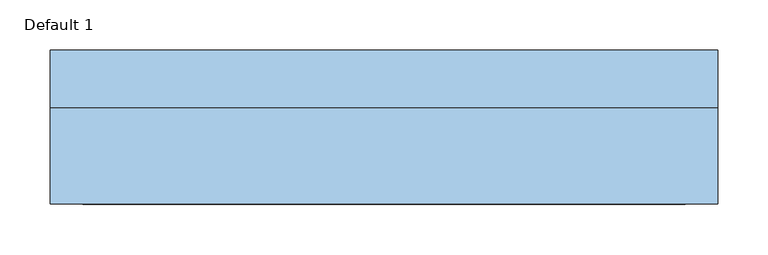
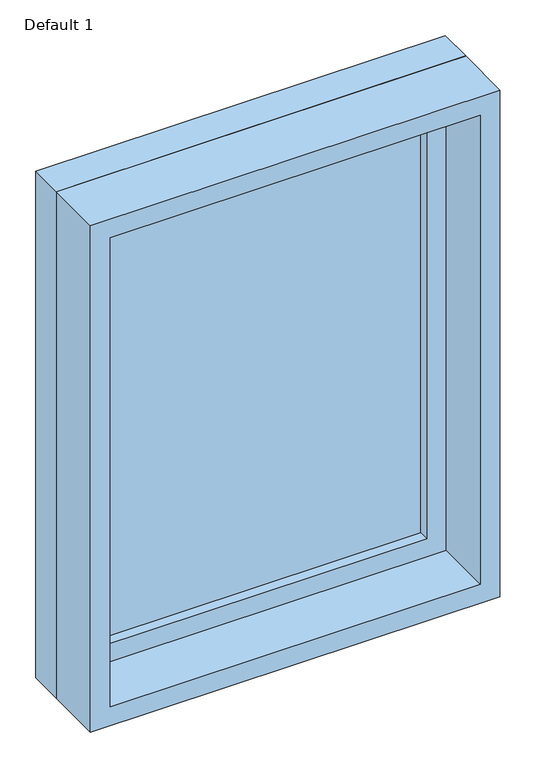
"""IFC4 building model written with IfcOpenShell, lengths in millimetres: window geometry, Planitar-Fixed : Default 1."""

import ifcopenshell
import ifcopenshell.guid

model = None  # the IFC model being written
_history = None  # IfcOwnerHistory: only IFC2X3 demands one
_inside = {}  # id of a spatial element -> (the spatial element, [elements in it])
_under = {}  # id of a project, library or spatial element -> (it, [spatial elements below it])
_declared = {}  # id of a project -> (the project, [libraries it declares])
_typed = {}  # id of a type object -> (the type object, [elements of that type])
_made_of = {}  # id of a material, layer set ... -> (it, [elements and type objects made of it])


def new_model(schema):
    """Start an empty IFC model of exactly this schema.

    Asked for "IFC4X3", IfcOpenShell would pick the latest addendum, in which some entities
    have other attributes; the version numbers below select the first issue.
    IFC2X3 requires an IfcOwnerHistory on every rooted entity: one is made here for all.
    """
    global model, _history
    if schema == "IFC4X3":
        model = ifcopenshell.file(schema_version=(4, 3, 0, 0))
    else:
        model = ifcopenshell.file(schema=schema)
    _inside.clear()
    _under.clear()
    _declared.clear()
    _typed.clear()
    _made_of.clear()
    _history = None
    if model.schema == "IFC2X3":
        org = make("IfcOrganization", Name="unknown")
        user = make(
            "IfcPersonAndOrganization",
            ThePerson=make("IfcPerson", FamilyName="unknown"),
            TheOrganization=org,
        )
        app = make(
            "IfcApplication",
            ApplicationDeveloper=org,
            Version="unknown",
            ApplicationFullName="unknown",
            ApplicationIdentifier="unknown",
        )
        _history = make(
            "IfcOwnerHistory",
            OwningUser=user,
            OwningApplication=app,
            ChangeAction="ADDED",
            CreationDate=0,
        )
    return model


def make(cls, **values):
    """One entity of the class cls with the attributes given. An attribute that is None is left unset."""
    return model.create_entity(
        cls, **{name: value for name, value in values.items() if value is not None}
    )


def rooted(cls, **values):
    """An entity with a GlobalId (a new one), such as an element, a storey or a relation."""
    return make(cls, GlobalId=ifcopenshell.guid.new(), OwnerHistory=_history, **values)


def si_unit(unit_type, name, prefix=None):
    """IfcSIUnit, for example si_unit("LENGTHUNIT", "METRE", prefix="MILLI")."""
    return make("IfcSIUnit", UnitType=unit_type, Prefix=prefix, Name=name)


def assignment(units):
    """IfcUnitAssignment: the units of a project."""
    return None if units is None else make("IfcUnitAssignment", Units=units)


def point(xyz):
    """IfcCartesianPoint."""
    return None if xyz is None else make("IfcCartesianPoint", Coordinates=xyz)


def direction(xyz):
    """IfcDirection."""
    return None if xyz is None else make("IfcDirection", DirectionRatios=xyz)


def frame(location, z_axis=None, x_axis=None):
    """IfcAxis2Placement3D, a coordinate frame: its origin and axes. An axis left out is left unset."""
    return make(
        "IfcAxis2Placement3D",
        Location=point(location),
        Axis=direction(z_axis),
        RefDirection=direction(x_axis),
    )


def origin():
    """The frame at (0, 0, 0) with its axes left unset."""
    return frame((0.0, 0.0, 0.0))


def place(relative_to, where):
    """IfcLocalPlacement: puts the frame where relative to a parent placement (None: the world)."""
    return make(
        "IfcLocalPlacement", PlacementRelTo=relative_to, RelativePlacement=where
    )


def context(
    kind, dimensions, precision=None, world=None, true_north=None, identifier=None
):
    """IfcGeometricRepresentationContext, for example the 3D "Model" context."""
    return make(
        "IfcGeometricRepresentationContext",
        ContextIdentifier=identifier,
        ContextType=kind,
        CoordinateSpaceDimension=dimensions,
        Precision=precision,
        WorldCoordinateSystem=world,
        TrueNorth=true_north,
    )


def project(units=None, contexts=None):
    """IfcProject with its units and contexts."""
    return rooted(
        "IfcProject",
        Name="project",
        RepresentationContexts=contexts,
        UnitsInContext=assignment(units),
    )


def spatial(cls, under=None, at=None, **own):
    """A site, building, storey or space (cls), placed at a placement, below another one or the project."""
    s = rooted(cls, ObjectPlacement=at, **own)
    if under is not None:
        _under.setdefault(under.id(), (under, []))[1].append(s)
    return s


def polyline(points):
    """IfcPolyline through the points."""
    return make("IfcPolyline", Points=[point(p) for p in points])


def outline(outer, holes=None, kind="AREA"):
    """IfcArbitraryClosedProfileDef: a profile drawn as a closed curve; with holes, ...WithVoids."""
    if holes is None:
        return make("IfcArbitraryClosedProfileDef", ProfileType=kind, OuterCurve=outer)
    return make(
        "IfcArbitraryProfileDefWithVoids",
        ProfileType=kind,
        OuterCurve=outer,
        InnerCurves=holes,
    )


def extrude(swept, where, along, depth):
    """IfcExtrudedAreaSolid: the profile swept, set in the frame where, extruded along a direction by depth."""
    return make(
        "IfcExtrudedAreaSolid",
        SweptArea=swept,
        Position=where,
        ExtrudedDirection=direction(along),
        Depth=depth,
    )


def shape(context_of_items, identifier, shape_type, items):
    """IfcShapeRepresentation: the items that make up one representation, for example the "Body"."""
    return make(
        "IfcShapeRepresentation",
        ContextOfItems=context_of_items,
        RepresentationIdentifier=identifier,
        RepresentationType=shape_type,
        Items=items,
    )


def source(mapping_origin, context_of_items, identifier, shape_type, items):
    """IfcRepresentationMap: a shape defined once, which mapped items show again and again."""
    return make(
        "IfcRepresentationMap",
        MappingOrigin=mapping_origin,
        MappedRepresentation=shape(context_of_items, identifier, shape_type, items),
    )


def transform(
    local_origin,
    x_axis=None,
    y_axis=None,
    z_axis=None,
    scale=None,
    scale2=None,
    scale3=None,
    uniform=True,
):
    """IfcCartesianTransformationOperator3D, or its non-uniform kind. x_axis, y_axis, z_axis: its Axis1, 2, 3."""
    if uniform:
        return make(
            "IfcCartesianTransformationOperator3D",
            Axis1=direction(x_axis),
            Axis2=direction(y_axis),
            LocalOrigin=point(local_origin),
            Scale=scale,
            Axis3=direction(z_axis),
        )
    return make(
        "IfcCartesianTransformationOperator3DnonUniform",
        Axis1=direction(x_axis),
        Axis2=direction(y_axis),
        LocalOrigin=point(local_origin),
        Scale=scale,
        Axis3=direction(z_axis),
        Scale2=scale2,
        Scale3=scale3,
    )


def mapped(mapping_source, mapping_target):
    """IfcMappedItem: shows the shape of a source again, moved by a transform."""
    return make(
        "IfcMappedItem", MappingSource=mapping_source, MappingTarget=mapping_target
    )


def made_of(thing, what):
    """Note that an element or type object is made of a material, layer set ...; save() writes the relation."""
    if what is not None:
        _made_of.setdefault(what.id(), (what, []))[1].append(thing)
    return thing


def element(
    cls,
    number,
    at=None,
    inside=None,
    cuts=None,
    type_object=None,
    material=None,
    context=None,
    identifier="Body",
    shape_type=None,
    held_by="IfcProductDefinitionShape",
    body=None,
    shapes=None,
    **own,
):
    """One element of the class cls, such as IfcWall. Its Tag is "e" and its number.

    at: its placement. inside: the storey or other place that contains it. cuts: it is an
    opening in that element (IfcRelVoidsElement). A single representation is given by context,
    identifier, shape_type and body (its items); several are given by shapes. held_by: the class
    of the entity that holds the representations. save() writes the other relations.
    """
    e = rooted(cls, Tag="e%d" % number, ObjectPlacement=at, **own)
    if body is not None:
        shapes = [shape(context, identifier, shape_type, body)]
    if shapes is not None:
        e.Representation = make(held_by, Representations=shapes)
    if inside is not None:
        _inside.setdefault(inside.id(), (inside, []))[1].append(e)
    if cuts is not None:
        rooted(
            "IfcRelVoidsElement", RelatingBuildingElement=cuts, RelatedOpeningElement=e
        )
    if type_object is not None:
        _typed.setdefault(type_object.id(), (type_object, []))[1].append(e)
    return made_of(e, material)


def aggregate(whole, parts):
    """IfcRelAggregates: a whole, such as a stair, and the parts it consists of."""
    return rooted("IfcRelAggregates", RelatingObject=whole, RelatedObjects=parts)


def save(model, path):
    """Write the relations noted so far, then the file.

    IfcRelAggregates (storeys below a building ...), IfcRelContainedInSpatialStructure (elements
    in a storey), IfcRelDefinesByType, IfcRelAssociatesMaterial and IfcRelDeclares: one each for
    every whole, place, type object, material and project.
    """
    for whole, parts in _under.values():
        aggregate(whole, parts)
    for where, things in _inside.values():
        rooted(
            "IfcRelContainedInSpatialStructure",
            RelatedElements=things,
            RelatingStructure=where,
        )
    for kind, things in _typed.values():
        rooted("IfcRelDefinesByType", RelatedObjects=things, RelatingType=kind)
    for what, things in _made_of.values():
        rooted("IfcRelAssociatesMaterial", RelatedObjects=things, RelatingMaterial=what)
    for by, libraries in _declared.values():
        rooted("IfcRelDeclares", RelatingContext=by, RelatedDefinitions=libraries)
    model.write(path)


def default_1_31258936(model_context):
    return source(origin(), model_context, "Body", "SweptSolid", [
        extrude(outline(polyline([(1759.0, -311.2), (933.4, -311.2), (933.4, 311.2), (1759.0, 311.2), (1759.0, -311.2)]), holes=[polyline([(1715.0, -267.2), (1715.0, 267.2), (977.4, 267.2), (977.4, -267.2), (1715.0, -267.2)])]), frame((0.0, 32.5, 0.0), z_axis=(0.0, 1.0, 0.0), x_axis=(0.0, 0.0, 1.0)), (0.0, 0.0, 1.0), 44.0),
        extrude(outline(polyline([(1778.0, -330.2), (914.4, -330.2), (914.4, 330.2), (1778.0, 330.2), (1778.0, -330.2)]), holes=[polyline([(1759.0, -311.2), (1759.0, 311.2), (933.4, 311.2), (933.4, -311.2), (1759.0, -311.2)])]), frame((0.0, 32.5, 0.0), z_axis=(0.0, 1.0, 0.0), x_axis=(0.0, 0.0, 1.0)), (0.0, 0.0, 1.0), 56.7),
        extrude(outline(polyline([(1778.0, -330.2), (914.4, -330.2), (914.4, 330.2), (1778.0, 330.2), (1778.0, -330.2)]), holes=[polyline([(1746.0, -298.2), (1746.0, 298.2), (946.4, 298.2), (946.4, -298.2), (1746.0, -298.2)])]), frame((0.0, -63.2, 0.0), z_axis=(0.0, 1.0, 0.0), x_axis=(0.0, 0.0, 1.0)), (0.0, 0.0, 1.0), 95.7),
        extrude(outline(polyline([(-267.2, 60.5), (267.2, 60.5), (267.2, 48.5), (-267.2, 48.5), (-267.2, 60.5)])), frame((0.0, 0.0, 977.4), z_axis=(0.0, 0.0, 1.0), x_axis=(1.0, 0.0, 0.0)), (0.0, 0.0, 1.0), 737.6),
    ])


if __name__ == "__main__":
    model = new_model("IFC4")
    model_context = context("Model", 3, world=origin())
    ifc_project = project(units=[si_unit("LENGTHUNIT", "METRE", prefix="MILLI")], contexts=[model_context])
    site = spatial("IfcSite", under=ifc_project)
    building = spatial("IfcBuilding", under=site)
    placement = place(None, origin())
    default_1_shape = default_1_31258936(model_context)
    element("IfcWindow", 1, ObjectType="Planitar-Fixed : Default 1", at=placement, inside=building, context=model_context, shape_type="MappedRepresentation", body=[
        mapped(default_1_shape, transform((0.0, 0.0, 0.0), x_axis=(1.0, 0.0, 0.0), y_axis=(0.0, 1.0, 0.0), z_axis=(0.0, 0.0, 1.0))),
    ])
    save(model, "model.ifc")
